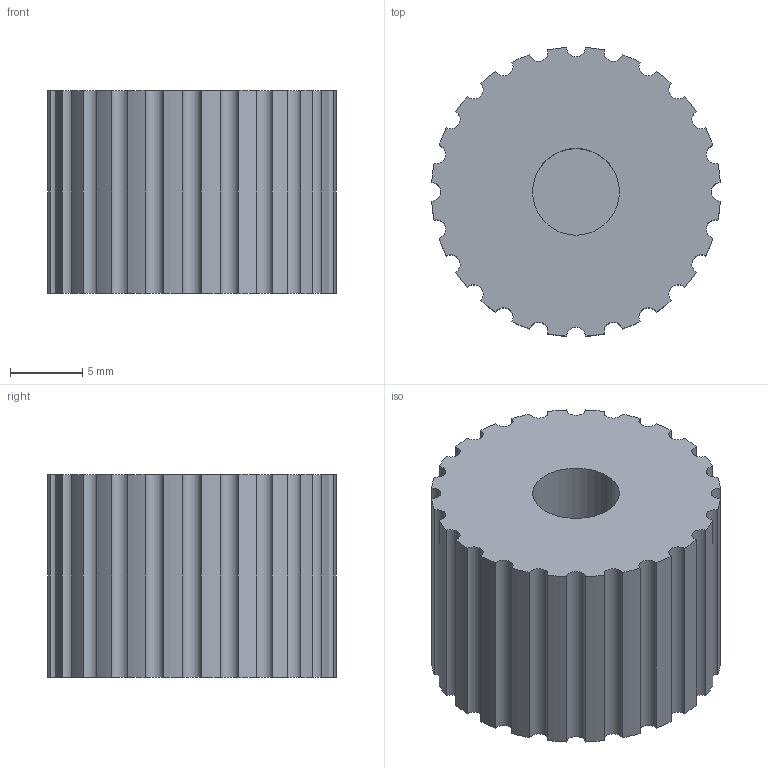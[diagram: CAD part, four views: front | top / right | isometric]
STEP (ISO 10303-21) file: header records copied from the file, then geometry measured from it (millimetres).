
FILE_DESCRIPTION(('Open CASCADE Model'),'2;1');
FILE_NAME('Open CASCADE Shape Model','2026-09-13T14:18:06',('Author'),( 'Open CASCADE'),'Open CASCADE STEP processor 7.9','Open CASCADE 7.9' ,'Unknown');
FILE_SCHEMA(('AUTOMOTIVE_DESIGN { 1 0 10303 214 1 1 1 1 }'));
Length unit declared in the file: millimetre
Products named in the file (1): Open CASCADE STEP translator 7.9 15
Bounding box: 19.96 x 19.96 x 14 mm (x, y, z)
Volume: 3864.2 mm3; surface area: 1926.1 mm2
Topology: 1 solids, 1 shells, 57 faces, 159 edges, 106 vertices
Faces by surface type: cylinder 49, plane 8
Full cylindrical faces by diameter (mm): 6 x1
Entity records: 3897 total; most frequent: CARTESIAN_POINT 811, DIRECTION 576, ORIENTED_EDGE 318, PCURVE 318, DEFINITIONAL_REPRESENTATION 318, CIRCLE 185, LINE 177, VECTOR 177
